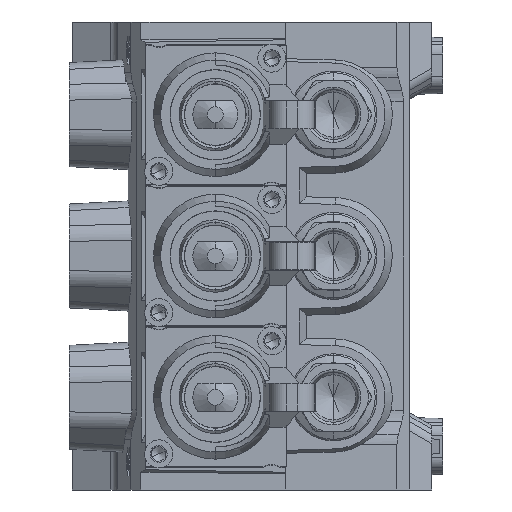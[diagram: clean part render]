
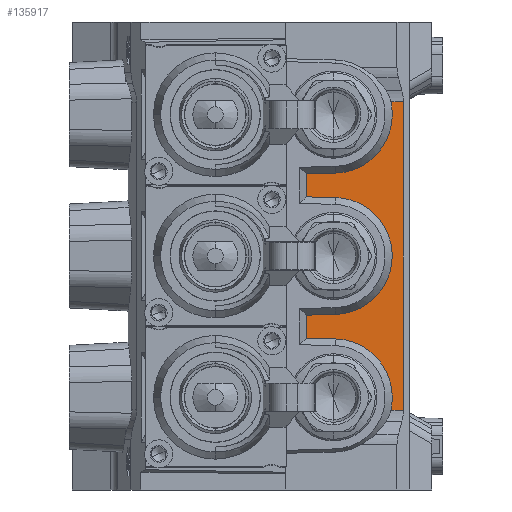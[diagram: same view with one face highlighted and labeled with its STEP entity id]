
A CAD part, left-side view. The second image highlights one B-rep face of the part: STEP entity #135917.
In plain terms, the highlighted planar face has unit normal (-1, -0.018, 0).
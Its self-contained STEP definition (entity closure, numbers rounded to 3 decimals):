
#82 = CARTESIAN_POINT ( 'NONE',  ( -66.017, -41.983, 54.915 ) ) ;
#2203 = VECTOR ( 'NONE', #174063, 1000. ) ;
#4133 = CARTESIAN_POINT ( 'NONE',  ( -64.506, -128.553, -75.8 ) ) ;
#7277 = CARTESIAN_POINT ( 'NONE',  ( -66.621, -7.387, 21.049 ) ) ;
#10395 = VERTEX_POINT ( 'NONE', #14760 ) ;
#13432 = ORIENTED_EDGE ( 'NONE', *, *, #129778, .F. ) ;
#14357 = CARTESIAN_POINT ( 'NONE',  ( -66.041, -40.642, -41.068 ) ) ;
#14760 = CARTESIAN_POINT ( 'NONE',  ( -66.621, -7.387, -21.049 ) ) ;
#17032 = VERTEX_POINT ( 'NONE', #161255 ) ;
#18571 = ORIENTED_EDGE ( 'NONE', *, *, #45978, .T. ) ;
#19700 = EDGE_CURVE ( 'NONE', #157167, #158274, #188526, .T. ) ;
#22278 = AXIS2_PLACEMENT_3D ( 'NONE', #4133, #80130, #169255 ) ;
#23694 = ORIENTED_EDGE ( 'NONE', *, *, #156589, .T. ) ;
#27038 = CARTESIAN_POINT ( 'NONE',  ( -66.017, -41.983, -54.915 ) ) ;
#31178 = ORIENTED_EDGE ( 'NONE', *, *, #127199, .F. ) ;
#34077 = CARTESIAN_POINT ( 'NONE',  ( -64.487, -129.633, -18.013 ) ) ;
#34494 = CARTESIAN_POINT ( 'NONE',  ( -64.487, -129.633, -32.287 ) ) ;
#34642 = VERTEX_POINT ( 'NONE', #63982 ) ;
#36058 = VECTOR ( 'NONE', #53684, 1000. ) ;
#37753 = LINE ( 'NONE', #182238, #192511 ) ;
#40189 =( BOUNDED_CURVE ( )  B_SPLINE_CURVE ( 3, ( #53259, #158760, #70239, #187611 ),
 .UNSPECIFIED., .F., .F. ) 
 B_SPLINE_CURVE_WITH_KNOTS ( ( 4, 4 ),
 ( 4.737, 7.829 ),
 .UNSPECIFIED. ) 
 CURVE ( )  GEOMETRIC_REPRESENTATION_ITEM ( )  RATIONAL_B_SPLINE_CURVE ( ( 1., 0.35, 0.35, 1. ) ) 
 REPRESENTATION_ITEM ( '' )  );
#40518 = ORIENTED_EDGE ( 'NONE', *, *, #19700, .F. ) ;
#40591 = LINE ( 'NONE', #127525, #99079 ) ;
#43105 = EDGE_CURVE ( 'NONE', #101023, #61707, #37753, .T. ) ;
#45978 = EDGE_CURVE ( 'NONE', #101023, #75865, #147536, .T. ) ;
#49174 = CARTESIAN_POINT ( 'NONE',  ( -66.621, -7.387, -29.251 ) ) ;
#49989 = PLANE ( 'NONE',  #22278 ) ;
#52844 = DIRECTION ( 'NONE',  ( 0.017, -1., 0.025 ) ) ;
#53259 = CARTESIAN_POINT ( 'NONE',  ( -66.441, -17.726, -20.792 ) ) ;
#53608 = CARTESIAN_POINT ( 'NONE',  ( -66.441, -17.726, 20.792 ) ) ;
#53684 = DIRECTION ( 'NONE',  ( -0.017, 1., 0.025 ) ) ;
#54339 = CARTESIAN_POINT ( 'NONE',  ( -64.509, -128.368, 18.044 ) ) ;
#57806 = LINE ( 'NONE', #88885, #161051 ) ;
#58333 = CARTESIAN_POINT ( 'NONE',  ( -66.193, -31.922, 29.86 ) ) ;
#60174 = LINE ( 'NONE', #188970, #123503 ) ;
#61707 = VERTEX_POINT ( 'NONE', #27038 ) ;
#63982 = CARTESIAN_POINT ( 'NONE',  ( -66.441, -17.726, -29.508 ) ) ;
#64597 = DIRECTION ( 'NONE',  ( 0.017, -1., -0.025 ) ) ;
#65539 = ORIENTED_EDGE ( 'NONE', *, *, #105426, .T. ) ;
#70090 = ORIENTED_EDGE ( 'NONE', *, *, #43105, .F. ) ;
#70239 = CARTESIAN_POINT ( 'NONE',  ( -65.749, -57.333, 19.809 ) ) ;
#75865 = VERTEX_POINT ( 'NONE', #135595 ) ;
#77763 = ORIENTED_EDGE ( 'NONE', *, *, #118890, .F. ) ;
#79710 = VERTEX_POINT ( 'NONE', #148408 ) ;
#80130 = DIRECTION ( 'NONE',  ( 1., 0.017, 0. ) ) ;
#84459 = CARTESIAN_POINT ( 'NONE',  ( -66.441, -17.726, -29.508 ) ) ;
#87359 = VERTEX_POINT ( 'NONE', #119129 ) ;
#88885 = CARTESIAN_POINT ( 'NONE',  ( -66.621, -7.387, 25.15 ) ) ;
#89657 = CARTESIAN_POINT ( 'NONE',  ( -66.096, -37.491, -54.915 ) ) ;
#96201 = ORIENTED_EDGE ( 'NONE', *, *, #108817, .F. ) ;
#97482 = DIRECTION ( 'NONE',  ( 0., 0., 1. ) ) ;
#99079 = VECTOR ( 'NONE', #52844, 1000. ) ;
#101023 = VERTEX_POINT ( 'NONE', #82 ) ;
#105426 = EDGE_CURVE ( 'NONE', #34642, #17032, #161777, .T. ) ;
#106555 = LINE ( 'NONE', #110594, #176875 ) ;
#108720 = DIRECTION ( 'NONE',  ( 0.017, -1., 0.025 ) ) ;
#108817 = EDGE_CURVE ( 'NONE', #10395, #87359, #156384, .T. ) ;
#110594 = CARTESIAN_POINT ( 'NONE',  ( -66.621, -7.387, 25.15 ) ) ;
#113770 = CARTESIAN_POINT ( 'NONE',  ( -66.105, -36.939, 54.915 ) ) ;
#117988 = ORIENTED_EDGE ( 'NONE', *, *, #124357, .F. ) ;
#118890 = EDGE_CURVE ( 'NONE', #79710, #75865, #129124, .T. ) ;
#119129 = CARTESIAN_POINT ( 'NONE',  ( -66.441, -17.726, -20.792 ) ) ;
#119688 = VECTOR ( 'NONE', #64597, 1000. ) ;
#122414 = CARTESIAN_POINT ( 'NONE',  ( -66.621, -7.387, 29.251 ) ) ;
#123503 = VECTOR ( 'NONE', #159461, 1000. ) ;
#123858 = DIRECTION ( 'NONE',  ( 0., 0., -1. ) ) ;
#124357 = EDGE_CURVE ( 'NONE', #87359, #157167, #40189, .T. ) ;
#125099 = EDGE_CURVE ( 'NONE', #17032, #61707, #60174, .T. ) ;
#127199 = EDGE_CURVE ( 'NONE', #194542, #10395, #106555, .T. ) ;
#127525 = CARTESIAN_POINT ( 'NONE',  ( -64.487, -129.633, 32.287 ) ) ;
#129124 =( BOUNDED_CURVE ( )  B_SPLINE_CURVE ( 3, ( #145509, #58333, #146784, #163848 ),
 .UNSPECIFIED., .F., .F. ) 
 B_SPLINE_CURVE_WITH_KNOTS ( ( 4, 4 ),
 ( 4.737, 6.507 ),
 .UNSPECIFIED. ) 
 CURVE ( )  GEOMETRIC_REPRESENTATION_ITEM ( )  RATIONAL_B_SPLINE_CURVE ( ( 1., 0.756, 0.756, 1. ) ) 
 REPRESENTATION_ITEM ( '' )  );
#129387 = ORIENTED_EDGE ( 'NONE', *, *, #183405, .F. ) ;
#129778 = EDGE_CURVE ( 'NONE', #167655, #79710, #40591, .T. ) ;
#135595 = CARTESIAN_POINT ( 'NONE',  ( -66.096, -37.491, 54.915 ) ) ;
#135917 = ADVANCED_FACE ( 'NONE', ( #185012 ), #49989, .F. ) ;
#145352 = CARTESIAN_POINT ( 'NONE',  ( -66.193, -31.922, -29.86 ) ) ;
#145509 = CARTESIAN_POINT ( 'NONE',  ( -66.441, -17.726, 29.508 ) ) ;
#146784 = CARTESIAN_POINT ( 'NONE',  ( -66.041, -40.642, 41.068 ) ) ;
#147536 = LINE ( 'NONE', #113770, #2203 ) ;
#148408 = CARTESIAN_POINT ( 'NONE',  ( -66.441, -17.726, 29.508 ) ) ;
#151677 = VECTOR ( 'NONE', #108720, 1000. ) ;
#156384 = LINE ( 'NONE', #34077, #151677 ) ;
#156589 = EDGE_CURVE ( 'NONE', #194542, #34642, #159574, .T. ) ;
#157167 = VERTEX_POINT ( 'NONE', #53608 ) ;
#158274 = VERTEX_POINT ( 'NONE', #7277 ) ;
#158760 = CARTESIAN_POINT ( 'NONE',  ( -65.749, -57.333, -19.809 ) ) ;
#159461 = DIRECTION ( 'NONE',  ( 0.017, -1., 0. ) ) ;
#159574 = LINE ( 'NONE', #34494, #119688 ) ;
#161051 = VECTOR ( 'NONE', #164193, 1000. ) ;
#161255 = CARTESIAN_POINT ( 'NONE',  ( -66.096, -37.491, -54.915 ) ) ;
#161777 =( BOUNDED_CURVE ( )  B_SPLINE_CURVE ( 3, ( #84459, #145352, #14357, #89657 ),
 .UNSPECIFIED., .F., .F. ) 
 B_SPLINE_CURVE_WITH_KNOTS ( ( 4, 4 ),
 ( 4.737, 6.507 ),
 .UNSPECIFIED. ) 
 CURVE ( )  GEOMETRIC_REPRESENTATION_ITEM ( )  RATIONAL_B_SPLINE_CURVE ( ( 1., 0.756, 0.756, 1. ) ) 
 REPRESENTATION_ITEM ( '' )  );
#163848 = CARTESIAN_POINT ( 'NONE',  ( -66.096, -37.491, 54.915 ) ) ;
#164193 = DIRECTION ( 'NONE',  ( 0., 0., 1. ) ) ;
#167655 = VERTEX_POINT ( 'NONE', #122414 ) ;
#169255 = DIRECTION ( 'NONE',  ( -0.017, 1., 0. ) ) ;
#172902 = ORIENTED_EDGE ( 'NONE', *, *, #125099, .T. ) ;
#174063 = DIRECTION ( 'NONE',  ( -0.017, 1., 0. ) ) ;
#176875 = VECTOR ( 'NONE', #97482, 1000. ) ;
#179361 = EDGE_LOOP ( 'NONE', ( #70090, #18571, #77763, #13432, #129387, #40518, #117988, #96201, #31178, #23694, #65539, #172902 ) ) ;
#182238 = CARTESIAN_POINT ( 'NONE',  ( -66.017, -41.983, 106.196 ) ) ;
#183405 = EDGE_CURVE ( 'NONE', #158274, #167655, #57806, .T. ) ;
#185012 = FACE_OUTER_BOUND ( 'NONE', #179361, .T. ) ;
#187611 = CARTESIAN_POINT ( 'NONE',  ( -66.441, -17.726, 20.792 ) ) ;
#188526 = LINE ( 'NONE', #54339, #36058 ) ;
#188970 = CARTESIAN_POINT ( 'NONE',  ( -66.017, -41.983, -54.915 ) ) ;
#192511 = VECTOR ( 'NONE', #123858, 1000. ) ;
#194542 = VERTEX_POINT ( 'NONE', #49174 ) ;
